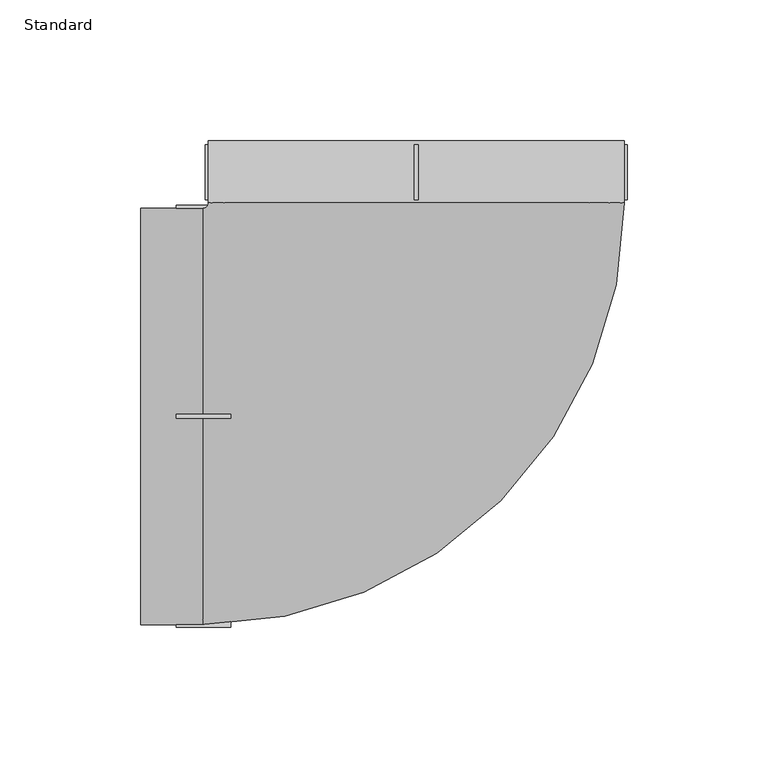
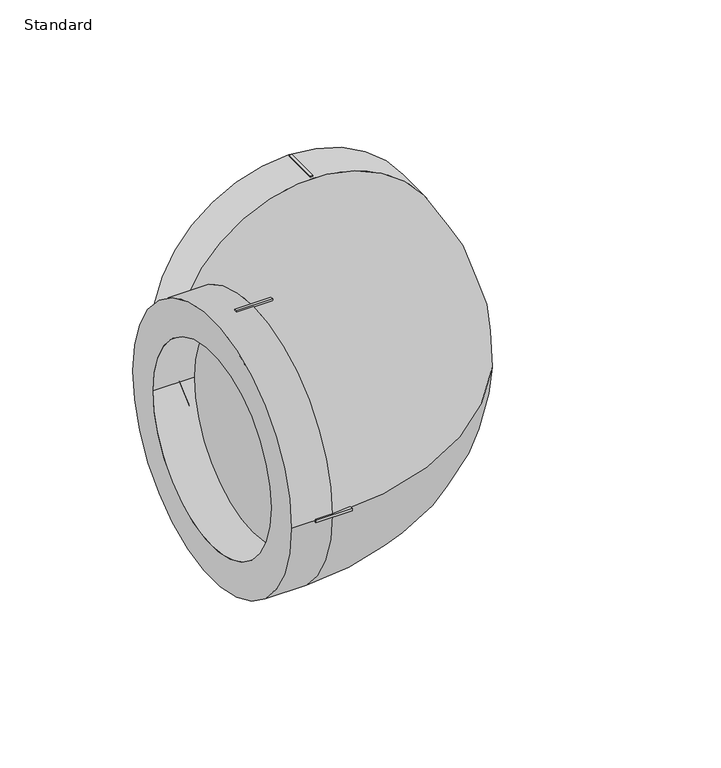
"""IFC4 building model written with IfcOpenShell, lengths in millimetres: pipe fitting geometry, EGB_VASEN_ PPR_Codo 90 WXR200_Codo 45 WXR220  : Standard."""

from ifc_helpers import new_model, si_unit, point, frame, origin, place, context, project, spatial, polyline, circle_curve, ellipse_curve, trimmed, outline, extrude, source, transform, mapped, element, save
from ifc_brep_helpers import plane_surface, cylinder_surface, revolved_surface, advanced_brep


def standard_8f5b783d(model_context):
    return source(origin(), model_context, "Body", "SolidModel", [
        advanced_brep(
        [(-98.0, -74.0, 0.0), (-98.0, 74.0, 0.0), (-98.0, -55.0, 0.0), (-98.0, 55.0, 0.0), (-76.0, -74.0, 0.0), (-76.0, 74.0, 0.0), (-76.0, -55.0, 0.0), (-76.0, 55.0, 0.0), (55.0, 76.0, 0.0), (-55.0, 76.0, 0.0), (-74.0, 76.0, 0.0), (74.0, 76.0, 0.0), (0.0, 76.0, 74.0), (0.0, 76.0, -74.0), (74.0, 98.0, 0.0), (-74.0, 98.0, 0.0), (55.0, 98.0, 0.0), (-55.0, 98.0, 0.0)],
        [
            (0, 1, circle_curve(frame((-98.0, 0.0, 0.0), z_axis=(-1.0, 0.0, 0.0), x_axis=(0.0, 1.0, 0.0)), 74.0)),
            (1, 0, circle_curve(frame((-98.0, 0.0, 0.0), z_axis=(-1.0, 0.0, 0.0), x_axis=(0.0, 1.0, 0.0)), 74.0)),
            (2, 3, circle_curve(frame((-98.0, 0.0, 0.0), z_axis=(1.0, 0.0, 0.0), x_axis=(0.0, 1.0, 0.0)), 55.0)),
            (3, 2, circle_curve(frame((-98.0, 0.0, 0.0), z_axis=(1.0, 0.0, 0.0), x_axis=(0.0, 1.0, 0.0)), 55.0)),
            (0, 4),
            (4, 5, circle_curve(frame((-76.0, 0.0, 0.0), z_axis=(-1.0, 0.0, 0.0), x_axis=(0.0, 1.0, 0.0)), 74.0)),
            (5, 1),
            (5, 4, circle_curve(frame((-76.0, 0.0, 0.0), z_axis=(-1.0, 0.0, 0.0), x_axis=(0.0, 1.0, 0.0)), 74.0)),
            (2, 6),
            (6, 7, circle_curve(frame((-76.0, 0.0, 0.0), z_axis=(1.0, 0.0, 0.0), x_axis=(0.0, 1.0, 0.0)), 55.0)),
            (7, 3),
            (7, 6, circle_curve(frame((-76.0, 0.0, 0.0), z_axis=(1.0, 0.0, 0.0), x_axis=(0.0, 1.0, 0.0)), 55.0)),
            (8, 9, circle_curve(frame((0.0, 76.0, 0.0), z_axis=(0.0, 1.0, 0.0), x_axis=(-1.0, 0.0, 0.0)), 55.0)),
            (9, 8, circle_curve(frame((0.0, 76.0, 0.0), z_axis=(0.0, 1.0, 0.0), x_axis=(-1.0, 0.0, 0.0)), 55.0)),
            (10, 5, circle_curve(frame((-76.0, 76.0, 0.0), z_axis=(0.0, 0.0, -1.0), x_axis=(0.0, -1.0, 0.0)), 2.0)),
            (4, 11, circle_curve(frame((-76.0, 76.0, 0.0), z_axis=(0.0, 0.0, 1.0), x_axis=(0.0, -1.0, 0.0)), 150.0)),
            (11, 12, circle_curve(frame((0.0, 76.0, 0.0), z_axis=(0.0, -1.0, 0.0), x_axis=(-1.0, 0.0, 0.0)), 74.0)),
            (12, 10, circle_curve(frame((0.0, 76.0, 0.0), z_axis=(0.0, -1.0, 0.0), x_axis=(-1.0, 0.0, 0.0)), 74.0)),
            (10, 13, circle_curve(frame((0.0, 76.0, 0.0), z_axis=(0.0, -1.0, 0.0), x_axis=(-1.0, 0.0, 0.0)), 74.0)),
            (13, 11, circle_curve(frame((0.0, 76.0, 0.0), z_axis=(0.0, -1.0, 0.0), x_axis=(-1.0, 0.0, 0.0)), 74.0)),
            (14, 15, circle_curve(frame((0.0, 98.0, 0.0), z_axis=(0.0, 1.0, 0.0), x_axis=(-1.0, 0.0, 0.0)), 74.0)),
            (15, 14, circle_curve(frame((0.0, 98.0, 0.0), z_axis=(0.0, 1.0, 0.0), x_axis=(-1.0, 0.0, 0.0)), 74.0)),
            (16, 17, circle_curve(frame((0.0, 98.0, 0.0), z_axis=(0.0, -1.0, 0.0), x_axis=(-1.0, 0.0, 0.0)), 55.0)),
            (17, 16, circle_curve(frame((0.0, 98.0, 0.0), z_axis=(0.0, -1.0, 0.0), x_axis=(-1.0, 0.0, 0.0)), 55.0)),
            (15, 10),
            (11, 14),
            (17, 9),
            (8, 16),
        ],
        [
            plane_surface(frame((-98.0, 0.0, 0.0), z_axis=(-1.0, 0.0, 0.0), x_axis=(0.0, 0.0, 1.0))),
            cylinder_surface(frame((-98.0, 0.0, 0.0), z_axis=(-1.0, 0.0, 0.0), x_axis=(0.0, 1.0, 0.0)), 74.0),
            revolved_surface(polyline([(-76.0, 55.0, 0.0), (-98.0, 55.0, 0.0)]), (-98.0, 0.0, 0.0), (1.0, 0.0, 0.0)),
            plane_surface(frame((-76.0, 0.0, 0.0), z_axis=(-1.0, 0.0, 0.0), x_axis=(0.0, 0.0, 1.0))),
            plane_surface(frame((0.0, 76.0, 0.0), z_axis=(0.0, 1.0, 0.0), x_axis=(0.0, 0.0, 1.0))),
            revolved_surface(trimmed(ellipse_curve(frame((-76.0, 0.0, 0.0), z_axis=(-1.0, 0.0, 0.0), x_axis=(0.0, 1.0, 0.0)), 74.0, 74.0), [point((-76.0, -74.0, 0.0))], [point((-76.0, 74.0, 0.0))], True, "CARTESIAN"), (-76.0, 76.0, 0.0), (0.0, 0.0, 1.0)),
            revolved_surface(trimmed(ellipse_curve(frame((-76.0, 0.0, 0.0), z_axis=(-1.0, 0.0, 0.0), x_axis=(0.0, 1.0, 0.0)), 74.0, 74.0), [point((-76.0, 74.0, 0.0))], [point((-76.0, -74.0, 0.0))], True, "CARTESIAN"), (-76.0, 76.0, 0.0), (0.0, 0.0, 1.0)),
            plane_surface(frame((0.0, 98.0, 0.0), z_axis=(0.0, 1.0, 0.0), x_axis=(0.0, 0.0, 1.0))),
            cylinder_surface(frame((0.0, 76.0, 0.0), z_axis=(0.0, -1.0, 0.0), x_axis=(-1.0, 0.0, 0.0)), 74.0),
            revolved_surface(polyline([(-55.0, 98.0, 0.0), (-55.0, 76.0, 0.0)]), (0.0, 76.0, 0.0), (0.0, 1.0, 0.0)),
        ],
        [
            (0, [[1, 2], [3, 4]]),
            (1, [[-1, 5, 6, 7]]),
            (1, [[-2, -7, 8, -5]]),
            (2, [[-3, 9, 10, 11]]),
            (2, [[-4, -11, 12, -9]]),
            (3, [[-10, -12]]),
            (4, [[13, 14]]),
            (5, [[15, -6, 16, 17, 18]]),
            (6, [[-15, 19, 20, -16, -8]]),
            (7, [[21, 22], [23, 24]]),
            (8, [[-22, 25, -18, -17, 26]]),
            (8, [[-21, -26, -20, -19, -25]]),
            (9, [[-24, 27, -13, 28]]),
            (9, [[-23, -28, -14, -27]]),
        ],
    ),
        extrude(outline(polyline([(0.75, 77.0), (-0.75, 77.0), (-0.75, 96.5), (0.75, 96.5), (0.75, 77.0)])), frame((0.0, 0.0, 73.0), z_axis=(0.0, 0.0, 1.0), x_axis=(1.0, 0.0, 0.0)), (0.0, 0.0, 1.0), 2.0),
        extrude(outline(polyline([(-73.0, 77.0), (-75.0, 77.0), (-75.0, 96.5), (-73.0, 96.5), (-73.0, 77.0)])), frame((0.0, 0.0, -0.75), z_axis=(0.0, 0.0, 1.0), x_axis=(1.0, 0.0, 0.0)), (0.0, 0.0, 1.0), 1.5),
        extrude(outline(polyline([(75.0, 77.0), (73.0, 77.0), (73.0, 96.5), (75.0, 96.5), (75.0, 77.0)])), frame((0.0, 0.0, -0.75), z_axis=(0.0, 0.0, 1.0), x_axis=(1.0, 0.0, 0.0)), (0.0, 0.0, 1.0), 1.5),
        extrude(outline(polyline([(0.75, 77.0), (-0.75, 77.0), (-0.75, 96.5), (0.75, 96.5), (0.75, 77.0)])), frame((0.0, 0.0, -75.0), z_axis=(0.0, 0.0, 1.0), x_axis=(1.0, 0.0, 0.0)), (0.0, 0.0, 1.0), 2.0),
        extrude(outline(polyline([(-65.9, 0.75), (-65.9, -0.75), (-85.4, -0.75), (-85.4, 0.75), (-65.9, 0.75)])), frame((0.0, 0.0, 73.0), z_axis=(0.0, 0.0, 1.0), x_axis=(1.0, 0.0, 0.0)), (0.0, 0.0, 1.0), 2.0),
        extrude(outline(polyline([(-65.9, 0.75), (-65.9, -0.75), (-85.4, -0.75), (-85.4, 0.75), (-65.9, 0.75)])), frame((0.0, 0.0, -75.0), z_axis=(0.0, 0.0, 1.0), x_axis=(1.0, 0.0, 0.0)), (0.0, 0.0, 1.0), 2.0),
        extrude(outline(polyline([(-65.9, 75.0), (-65.9, 73.0), (-85.4, 73.0), (-85.4, 75.0), (-65.9, 75.0)])), frame((0.0, 0.0, -0.75), z_axis=(0.0, 0.0, 1.0), x_axis=(1.0, 0.0, 0.0)), (0.0, 0.0, 1.0), 1.5),
        extrude(outline(polyline([(-65.9, -73.0), (-65.9, -75.0), (-85.4, -75.0), (-85.4, -73.0), (-65.9, -73.0)])), frame((0.0, 0.0, -0.75), z_axis=(0.0, 0.0, 1.0), x_axis=(1.0, 0.0, 0.0)), (0.0, 0.0, 1.0), 1.5),
    ])


if __name__ == "__main__":
    model = new_model("IFC4")
    model_context = context("Model", 3, world=origin())
    ifc_project = project(units=[si_unit("LENGTHUNIT", "METRE", prefix="MILLI")], contexts=[model_context])
    site = spatial("IfcSite", under=ifc_project)
    building = spatial("IfcBuilding", under=site)
    placement = place(None, origin())
    standard_shape = standard_8f5b783d(model_context)
    element("IfcPipeFitting", 1, ObjectType="EGB_VASEN_ PPR_Codo 90 WXR200_Codo 45 WXR220  : Standard", at=placement, inside=building, context=model_context, shape_type="MappedRepresentation", body=[
        mapped(standard_shape, transform((0.0, 0.0, 0.0), x_axis=(1.0, 0.0, 0.0), y_axis=(0.0, 1.0, 0.0), z_axis=(0.0, 0.0, 1.0))),
    ])
    save(model, "model.ifc")
